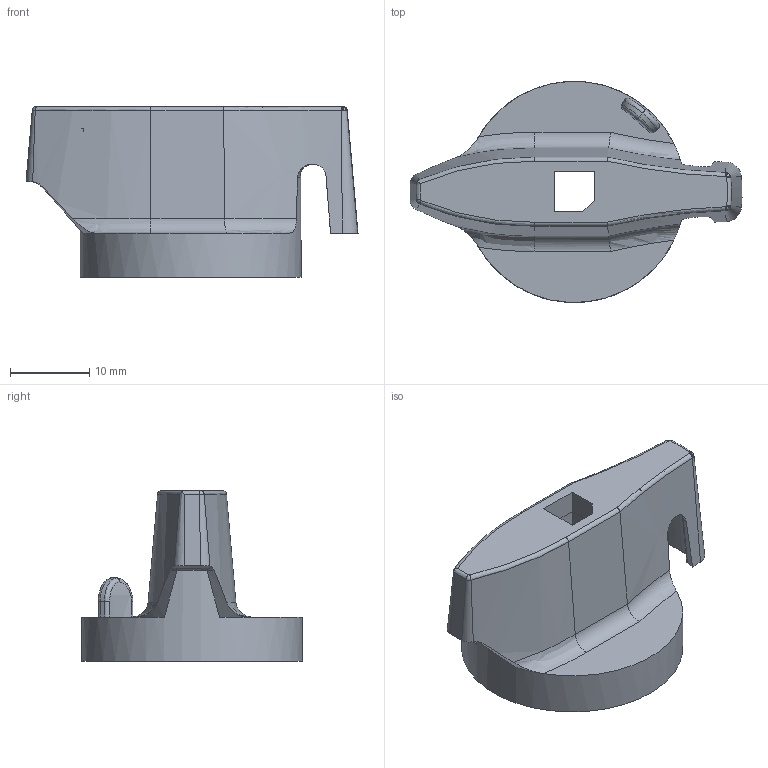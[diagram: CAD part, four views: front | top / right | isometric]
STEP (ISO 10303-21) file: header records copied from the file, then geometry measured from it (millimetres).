
FILE_DESCRIPTION (( 'STEP AP214' ), '1' );
FILE_NAME ('Ðóêîÿòêà íåïîñðåäñòâåííîãî ìîíòàæà êðàñíàÿ OptiSwitch DI-80-125 (äëÿ OptiSwitch DI-80-125-3).STEP', '2023-03-26T20:36:22', ( 'Ïîëüçîâàòåëü' ), ( '' ), 'SwSTEP 2.0', 'SolidWorks 2018', '' );
FILE_SCHEMA (( 'AUTOMOTIVE_DESIGN' ));
Length unit declared in the file: millimetre
Products named in the file (2): Ðóêîÿòêà íåïîñðåäñòâåííîãî ìîíòàæà êðàñíàÿ OptiSwitch DI-80-125; Ðóêîÿòêà íåïîñðåäñòâåííîãî ìîíòàæà êðàñíàÿ OptiSwitch DI-80-125 (äëÿ OptiSwitch DI-80-125-3)
Assembly tree (1 placements, depth 2):
  Ðóêîÿòêà íåïîñðåäñòâåííîãî ìîíòàæà êðàñíàÿ OptiSwitch DI-80-125 (äëÿ OptiSwitch DI-80-125-3)
    Ðóêîÿòêà íåïîñðåäñòâåííîãî ìîíòàæà êðàñíàÿ OptiSwitch DI-80-125
Bounding box: 42.02 x 27.97 x 21.6 mm (x, y, z)
Volume: 5454.4 mm3; surface area: 4564.6 mm2
Topology: 1 solids, 1 shells, 111 faces, 286 edges, 176 vertices
Faces by surface type: plane 35, bspline 35, cylinder 23, torus 9, cone 9
Full cylindrical faces by diameter (mm): 23.6 x1, 28 x1
Entity records: 6457 total; most frequent: CARTESIAN_POINT 4062, ORIENTED_EDGE 558, DIRECTION 377, EDGE_CURVE 279, VERTEX_POINT 175, AXIS2_PLACEMENT_3D 143, B_SPLINE_CURVE_WITH_KNOTS 124, EDGE_LOOP 118
